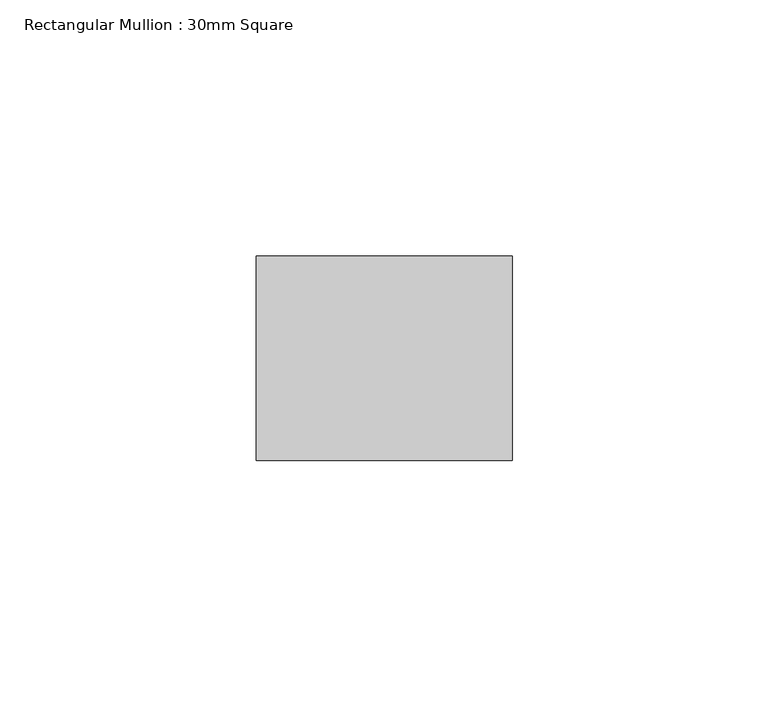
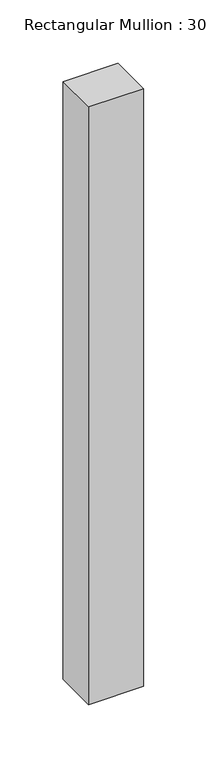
"""IFC4 building model written with IfcOpenShell, lengths in millimetres: member geometry, Rectangular Mullion : 30mm Square."""

from ifc_helpers import new_model, si_unit, frame, origin, place, context, project, spatial, polyline, outline, extrude, source, transform, mapped, element, save


def rectangular_mullion_30mm_square_0e867355(model_context):
    return source(origin(), model_context, "Body", "SweptSolid", [
        extrude(outline(polyline([(25.0, 20.0), (25.0, -20.0), (-25.0, -20.0), (-25.0, 20.0), (25.0, 20.0)])), frame((0.0, 0.0, -575.0), z_axis=(0.0, 0.0, 1.0), x_axis=(1.0, 0.0, 0.0)), (0.0, 0.0, 1.0), 575.0),
    ])


if __name__ == "__main__":
    model = new_model("IFC4")
    model_context = context("Model", 3, world=origin())
    ifc_project = project(units=[si_unit("LENGTHUNIT", "METRE", prefix="MILLI")], contexts=[model_context])
    site = spatial("IfcSite", under=ifc_project)
    building = spatial("IfcBuilding", under=site)
    placement = place(None, origin())
    rectangular_mullion_30mm_square_shape = rectangular_mullion_30mm_square_0e867355(model_context)
    element("IfcMember", 1, ObjectType="Rectangular Mullion : 30mm Square", at=placement, inside=building, context=model_context, shape_type="MappedRepresentation", body=[
        mapped(rectangular_mullion_30mm_square_shape, transform((0.0, 0.0, 0.0), x_axis=(1.0, 0.0, 0.0), y_axis=(0.0, 1.0, 0.0), z_axis=(0.0, 0.0, 1.0))),
    ])
    save(model, "model.ifc")
